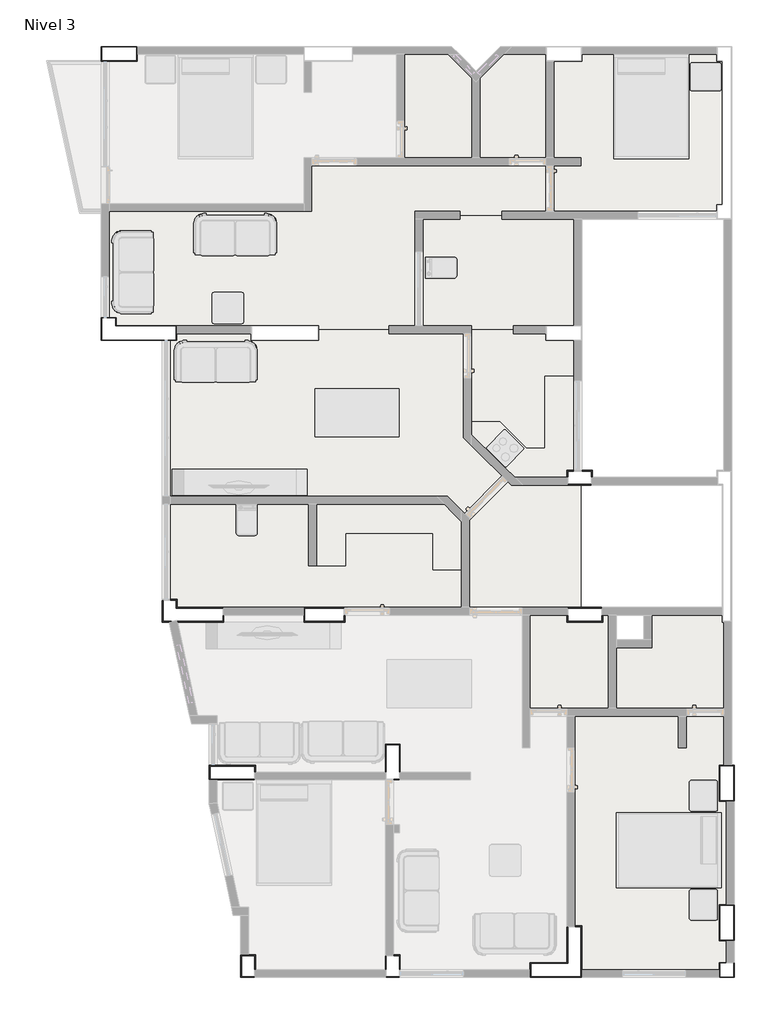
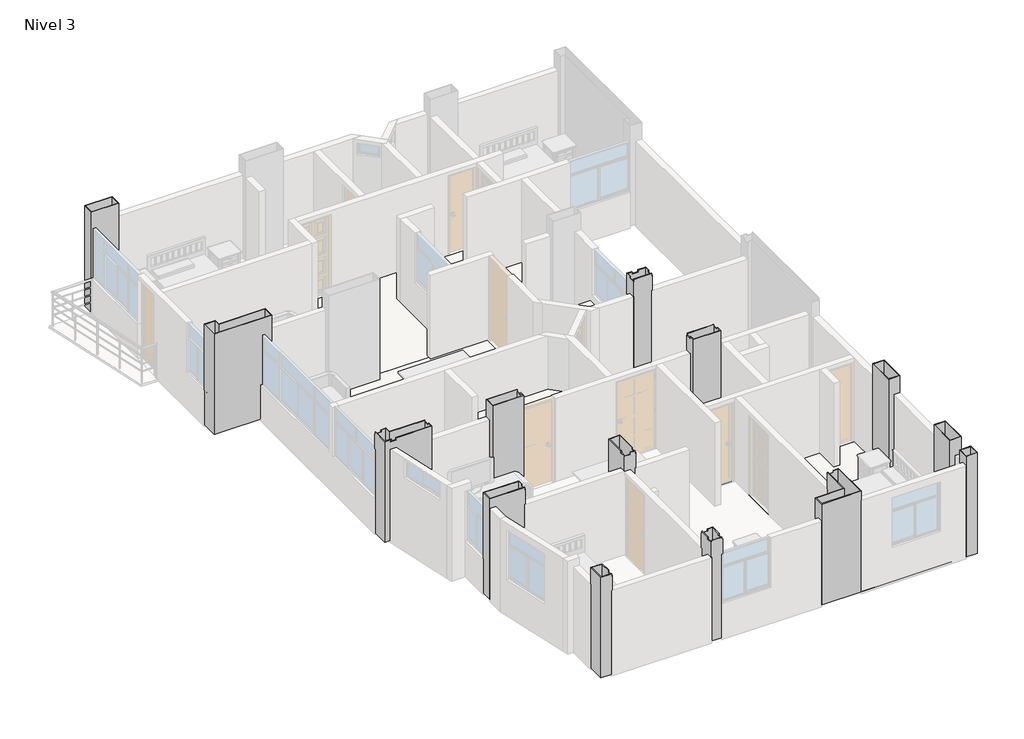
# One storey, part 3 of 4: 14 columns, 14 slabs.
"""IFC4 building model written with IfcOpenShell, lengths in millimetres."""

from ifc_helpers import new_model, si_unit, frame, origin, place, context, project, spatial, polyline, outline, extrude, faceted_brep, element, save

model = new_model("IFC4")

# Units and contexts
model_context = context("Model", 3, world=origin())
ifc_project = project(units=[si_unit("LENGTHUNIT", "METRE", prefix="MILLI")], contexts=[model_context])

# Site, building, storey
site = spatial("IfcSite", under=ifc_project)
building = spatial("IfcBuilding", under=site)
storey = spatial("IfcBuildingStorey", under=building, Name="Nivel 3", Elevation=5450.0)

# Columns
placement = place(None, origin())
element("IfcColumn", 1, ObjectType="Columna L Arquitectonica : ACO_L 40x114x25 cm", at=placement, inside=storey, context=model_context, shape_type="Brep", body=[
    faceted_brep([(-350.0, 7000.0, 5450.0), (-1240.0, 7000.0, 5450.0), (-1240.0, 7150.0, 5450.0), (-1355.0, 7150.0, 5450.0), (-1355.0, 7165.0, 5450.0), (-1225.0, 7165.0, 5450.0), (-1225.0, 7015.0, 5450.0), (-350.0, 7015.0, 5450.0), (-1240.0, 7150.0, 8100.0), (-1355.0, 7150.0, 8100.0), (-1355.0, 7150.0, 8050.0), (-1490.0, 7150.0, 8050.0), (-1490.0, 7150.0, 7650.0), (-1355.0, 7150.0, 7650.0), (-1490.0, 6750.0, 5450.0), (-1490.0, 7150.0, 5450.0), (-1490.0, 7150.0, 8100.0), (-1490.0, 6750.0, 8100.0), (-1331.7746495, 6750.0, 8100.0), (-1331.7746495, 6750.0, 8050.0), (-1220.1386409, 6750.0, 8050.0), (-1220.1386409, 6750.0, 8100.0), (-350.0, 6750.0, 8100.0), (-350.0, 6750.0, 5450.0), (-1220.1386409, 6750.0, 5450.0), (-1220.1386409, 6750.0, 7850.0), (-1331.7746495, 6750.0, 7850.0), (-1331.7746495, 6750.0, 5450.0), (-350.0, 6865.0, 8100.0), (-350.0, 6865.0, 8050.0), (-350.0, 7000.0, 8050.0), (-350.0, 7000.0, 7650.0), (-350.0, 6865.0, 7650.0), (-350.0, 6865.0, 5450.0), (-350.0, 7000.0, 8100.0), (-1240.0, 7000.0, 8100.0), (-1225.0, 7165.0, 8100.0), (-1225.0, 7015.0, 8100.0), (-350.0, 7015.0, 8100.0), (-350.0, 7015.0, 8050.0), (-335.0, 7015.0, 8050.0), (-335.0, 7015.0, 7650.0), (-350.0, 7015.0, 7650.0), (-335.0, 6735.0, 8100.0), (-335.0, 6735.0, 5450.0), (-335.0, 6865.0, 5450.0), (-335.0, 6865.0, 7650.0), (-335.0, 6865.0, 8050.0), (-335.0, 6865.0, 8100.0), (-1216.8940234, 6735.0, 8100.0), (-1216.8940234, 6735.0, 8050.0), (-1370.3630896, 6735.0, 8050.0), (-1370.3630896, 6735.0, 8100.0), (-1505.0, 6735.0, 8100.0), (-1505.0, 6735.0, 5450.0), (-1370.3630896, 6735.0, 5450.0), (-1370.3630896, 6735.0, 7850.0), (-1216.8940234, 6735.0, 7850.0), (-1216.8940234, 6735.0, 5450.0), (-1505.0, 7150.0, 8100.0), (-1505.0, 7150.0, 8050.0), (-1505.0, 7165.0, 8050.0), (-1505.0, 7165.0, 7650.0), (-1505.0, 7150.0, 7650.0), (-1505.0, 7150.0, 5450.0), (-1355.0, 7165.0, 6350.0), (-1355.0, 7165.0, 7650.0), (-1355.0, 7165.0, 8050.0), (-1355.0, 7165.0, 8100.0), (-1371.7378651, 6741.3556434, 8100.0), (-1371.7378651, 6741.3556434, 5450.0), (-1371.7378651, 6741.3556434, 7850.0), (-1371.7378651, 6741.3556434, 8050.0)], [[[0, 1, 2, 3, 4, 5, 6, 7]], [[2, 8, 9, 10, 11, 12, 13, 3]], [[14, 15, 12, 11, 16, 17]], [[14, 17, 18, 19, 20, 21, 22, 23, 24, 25, 26, 27]], [[23, 22, 28, 29, 30, 31, 32, 33]], [[1, 0, 31, 30, 34, 35]], [[2, 1, 35, 8]], [[6, 5, 36, 37]], [[6, 37, 38, 39, 40, 41, 42, 7]], [[43, 44, 45, 46, 41, 40, 47, 48]], [[44, 43, 49, 50, 51, 52, 53, 54, 55, 56, 57, 58]], [[54, 53, 59, 60, 61, 62, 63, 64]], [[36, 5, 4, 65, 66, 62, 61, 67, 68]], [[17, 16, 59, 53, 52, 69, 18]], [[4, 3, 13, 66, 65]], [[12, 63, 62, 66, 13]], [[63, 12, 15, 64]], [[32, 46, 45, 33]], [[42, 31, 0, 7]], [[31, 42, 41, 46, 32]], [[23, 33, 45, 44, 58, 24]], [[57, 25, 24, 58]], [[70, 71, 56, 55]], [[71, 70, 27, 26]], [[25, 57, 56, 71, 26]], [[15, 14, 27, 70, 55, 54, 64]], [[67, 10, 9, 68]], [[60, 11, 10, 67, 61]], [[11, 60, 59, 16]], [[47, 29, 28, 48]], [[39, 30, 29, 47, 40]], [[30, 39, 38, 34]], [[35, 34, 38, 37, 36, 68, 9, 8]], [[20, 50, 49, 21]], [[51, 72, 69, 52]], [[50, 20, 19, 72, 51]], [[69, 72, 19, 18]], [[43, 48, 28, 22, 21, 49]]]),
])
element("IfcColumn", 2, ObjectType="Columna L Arquitectonica : ACO_L 40x140x25 cm", at=placement, inside=storey, context=model_context, shape_type="Brep", body=[
    faceted_brep([(-2385.0, 12515.0, 5450.0), (-2385.0, 12365.0, 5450.0), (-1235.0, 12365.0, 5450.0), (-1235.0, 12085.0, 5450.0), (-2665.0, 12085.0, 5450.0), (-2665.0, 12515.0, 5450.0), (-2400.0, 12500.0, 5450.0), (-2650.0, 12500.0, 5450.0), (-2650.0, 12100.0, 5450.0), (-1250.0, 12100.0, 5450.0), (-1250.0, 12350.0, 5450.0), (-2400.0, 12350.0, 5450.0), (-2400.0, 12500.0, 8100.0), (-2650.0, 12500.0, 8100.0), (-2650.0, 12100.0, 8100.0), (-1250.0, 12100.0, 8100.0), (-1250.0, 12350.0, 8100.0), (-2400.0, 12350.0, 8100.0), (-2385.0, 12515.0, 8100.0), (-2385.0, 12365.0, 8100.0), (-1235.0, 12365.0, 8100.0), (-1235.0, 12365.0, 8050.0), (-1235.0, 12365.0, 7650.0), (-1235.0, 12085.0, 8100.0), (-2665.0, 12085.0, 8100.0), (-2665.0, 12515.0, 8100.0), (-2665.0, 12515.0, 8050.0), (-2665.0, 12515.0, 6350.0)], [[[0, 1, 2, 3, 4, 5], [6, 7, 8, 9, 10, 11]], [[12, 13, 7, 6]], [[13, 14, 8, 7]], [[14, 15, 9, 8]], [[15, 16, 10, 9]], [[16, 17, 11, 10]], [[17, 12, 6, 11]], [[18, 19, 1, 0]], [[19, 20, 21, 22, 2, 1]], [[20, 23, 3, 2, 22, 21]], [[23, 24, 4, 3]], [[24, 25, 26, 27, 5, 4]], [[25, 18, 0, 5, 27, 26]], [[18, 25, 24, 23, 20, 19], [12, 17, 16, 15, 14, 13]]]),
])
element("IfcColumn", 3, ObjectType="Columna L Arquitectonica : ACO_L 95x95x25 cm", at=placement, inside=storey, context=model_context, shape_type="Brep", body=[
    faceted_brep([(5500.0, 250.0, 5450.0), (5500.0, 0.0, 5450.0), (6450.0, 0.0, 5450.0), (6450.0, 950.0, 5450.0), (6335.0, 950.0, 5450.0), (6335.0, 965.0, 5450.0), (6465.0, 965.0, 5450.0), (6465.0, -15.0, 5450.0), (5485.0, -15.0, 5450.0), (5485.0, 265.0, 5450.0), (6185.0, 265.0, 5450.0), (6185.0, 950.0, 5450.0), (6200.0, 950.0, 5450.0), (6200.0, 250.0, 5450.0), (5500.0, 250.0, 8100.0), (5500.0, 0.0, 8100.0), (6450.0, 0.0, 8100.0), (6450.0, 950.0, 8100.0), (6335.0, 950.0, 8100.0), (6335.0, 950.0, 8050.0), (6200.0, 950.0, 8050.0), (6200.0, 950.0, 7650.0), (6335.0, 950.0, 7650.0), (6200.0, 950.0, 8100.0), (6200.0, 250.0, 8100.0), (5485.0, 265.0, 8100.0), (6185.0, 265.0, 8100.0), (6185.0, 950.0, 8100.0), (6185.0, 950.0, 8050.0), (6185.0, 965.0, 8050.0), (6185.0, 965.0, 7650.0), (6185.0, 950.0, 7650.0), (6465.0, 965.0, 8100.0), (6335.0, 965.0, 7650.0), (6335.0, 965.0, 8050.0), (6335.0, 965.0, 8100.0), (6465.0, -15.0, 8100.0), (6465.0, -15.0, 8050.0), (6465.0, -15.0, 7850.0), (5485.0, -15.0, 8100.0), (5485.0, -15.0, 8050.0), (5485.0, -15.0, 7650.0)], [[[0, 1, 2, 3, 4, 5, 6, 7, 8, 9, 10, 11, 12, 13]], [[1, 0, 14, 15]], [[2, 1, 15, 16]], [[3, 2, 16, 17]], [[3, 17, 18, 19, 20, 21, 22, 4]], [[13, 12, 21, 20, 23, 24]], [[0, 13, 24, 14]], [[10, 9, 25, 26]], [[10, 26, 27, 28, 29, 30, 31, 11]], [[32, 6, 5, 33, 30, 29, 34, 35]], [[7, 6, 32, 36, 37, 38]], [[8, 7, 38, 37, 36, 39, 40, 41]], [[9, 8, 41, 40, 39, 25]], [[15, 14, 24, 23, 27, 26, 25, 39, 36, 32, 35, 18, 17, 16]], [[22, 33, 5, 4]], [[21, 31, 30, 33, 22]], [[31, 21, 12, 11]], [[34, 19, 18, 35]], [[28, 20, 19, 34, 29]], [[20, 28, 27, 23]]]),
])
element("IfcColumn", 4, ObjectType="Columna Rectangular Arquitectonica : ACO_Rectangular 25x25 cm", at=placement, inside=storey, context=model_context, shape_type="Brep", body=[
    faceted_brep([(9085.0, -15.0, 5450.0), (9085.0, 265.0, 5450.0), (9365.0, 265.0, 5450.0), (9365.0, -15.0, 5450.0), (9100.0, 0.0, 5450.0), (9350.0, 0.0, 5450.0), (9350.0, 250.0, 5450.0), (9100.0, 250.0, 5450.0), (9100.0, 0.0, 8100.0), (9350.0, 0.0, 8100.0), (9350.0, 250.0, 8100.0), (9100.0, 250.0, 8100.0), (9085.0, -15.0, 8100.0), (9085.0, 265.0, 8100.0), (9085.0, -15.0, 7850.0), (9085.0, -15.0, 8050.0), (9365.0, 265.0, 8100.0), (9365.0, 265.0, 8050.0), (9365.0, 265.0, 7650.0), (9365.0, -15.0, 8100.0)], [[[0, 1, 2, 3], [4, 5, 6, 7]], [[8, 9, 5, 4]], [[9, 10, 6, 5]], [[10, 11, 7, 6]], [[11, 8, 4, 7]], [[12, 13, 1, 0, 14, 15]], [[13, 16, 17, 18, 2, 1]], [[16, 19, 3, 2, 18, 17]], [[19, 12, 15, 14, 0, 3]], [[12, 19, 16, 13], [8, 11, 10, 9]]]),
])
element("IfcColumn", 5, ObjectType="Columna Rectangular Arquitectonica : ACO_Rectangular 25x40 cm", at=placement, inside=storey, context=model_context, shape_type="Brep", body=[
    faceted_brep([(2735.0, 400.0, 5450.0), (2750.0, 400.0, 5450.0), (2750.0, 135.0, 5450.0), (2735.0, 135.0, 5450.0), (3000.0, 0.0, 5450.0), (2750.0, 0.0, 5450.0), (2750.0, 0.0, 7650.0), (2750.0, 0.0, 8050.0), (2750.0, 0.0, 8100.0), (3000.0, 0.0, 8100.0), (3000.0, 0.0, 8050.0), (3000.0, 0.0, 7650.0), (3000.0, 400.0, 8100.0), (3000.0, 400.0, 5450.0), (3000.0, 135.0, 5450.0), (3000.0, 135.0, 7650.0), (3000.0, 135.0, 8050.0), (3000.0, 135.0, 8100.0), (2885.0, 400.0, 8100.0), (2885.0, 400.0, 8050.0), (2750.0, 400.0, 8050.0), (2750.0, 400.0, 7650.0), (2885.0, 400.0, 7650.0), (2885.0, 400.0, 5450.0), (2750.0, 400.0, 8100.0), (2750.0, 135.0, 8100.0), (2750.0, 135.0, 8050.0), (2750.0, 135.0, 7650.0), (2735.0, 415.0, 7650.0), (2735.0, 400.0, 7650.0), (2735.0, 135.0, 7650.0), (2735.0, -15.0, 7650.0), (2735.0, -15.0, 8050.0), (2735.0, 135.0, 8050.0), (2735.0, 135.0, 8100.0), (2735.0, 400.0, 8100.0), (2735.0, 400.0, 8050.0), (2735.0, 415.0, 8050.0), (3015.0, 415.0, 8100.0), (3015.0, 415.0, 5450.0), (2885.0, 415.0, 5450.0), (2885.0, 415.0, 7650.0), (2885.0, 415.0, 8050.0), (2885.0, 415.0, 8100.0), (3015.0, 135.0, 8100.0), (3015.0, 135.0, 8050.0), (3015.0, -15.0, 8050.0), (3015.0, -15.0, 7650.0), (3015.0, 135.0, 7650.0), (3015.0, 135.0, 6350.0), (3015.0, 135.0, 5450.0), (2750.0, -15.0, 7650.0), (2750.0, -15.0, 5450.0), (3000.0, -15.0, 5450.0), (3000.0, -15.0, 7650.0), (3000.0, -15.0, 8050.0), (3000.0, -15.0, 8100.0), (2750.0, -15.0, 8100.0), (2750.0, -15.0, 8050.0)], [[[0, 1, 2, 3]], [[4, 5, 6, 7, 8, 9, 10, 11]], [[12, 13, 14, 15, 11, 10, 16, 17]], [[13, 12, 18, 19, 20, 21, 22, 23]], [[1, 21, 20, 24, 25, 26, 7, 6, 27, 2]], [[28, 29, 0, 3, 30, 31, 32, 33, 34, 35, 36, 37]], [[38, 39, 40, 41, 28, 37, 42, 43]], [[39, 38, 44, 45, 46, 47, 48, 49, 50]], [[31, 51, 52, 53, 54, 47, 46, 55, 56, 57, 58, 32]], [[9, 8, 57, 56]], [[22, 41, 40, 23]], [[21, 29, 28, 41, 22]], [[29, 21, 1, 0]], [[27, 30, 3, 2]], [[6, 51, 31, 30, 27]], [[51, 6, 5, 52]], [[13, 23, 40, 39, 50, 14]], [[15, 14, 50, 49, 48]], [[11, 54, 53, 4]], [[54, 11, 15, 48, 47]], [[5, 4, 53, 52]], [[42, 19, 18, 43]], [[36, 20, 19, 42, 37]], [[20, 36, 35, 24]], [[33, 26, 25, 34]], [[58, 7, 26, 33, 32]], [[7, 58, 57, 8]], [[24, 35, 34, 25]], [[16, 45, 44, 17]], [[10, 55, 46, 45, 16]], [[55, 10, 9, 56]], [[18, 12, 17, 44, 38, 43]]]),
])
element("IfcColumn", 6, ObjectType="Columna Rectangular Arquitectonica : ACO_Rectangular 25x40 cm", at=placement, inside=storey, context=model_context, shape_type="Brep", body=[
    faceted_brep([(0.0, 0.0, 5450.0), (250.0, 0.0, 5450.0), (250.0, -15.0, 5450.0), (-15.0, -15.0, 5450.0), (-15.0, 415.0, 5450.0), (265.0, 415.0, 5450.0), (265.0, 135.0, 5450.0), (250.0, 135.0, 5450.0), (250.0, 400.0, 5450.0), (0.0, 400.0, 5450.0), (0.0, 0.0, 8100.0), (250.0, 0.0, 8100.0), (250.0, 0.0, 8050.0), (250.0, 0.0, 7650.0), (250.0, 400.0, 8100.0), (250.0, 135.0, 7650.0), (250.0, 135.0, 8050.0), (250.0, 135.0, 8100.0), (0.0, 400.0, 8100.0), (-15.0, -15.0, 8100.0), (-15.0, 415.0, 8100.0), (-15.0, 415.0, 8050.0), (-15.0, 415.0, 7650.0), (265.0, 415.0, 8100.0), (265.0, 135.0, 8100.0), (265.0, 135.0, 8050.0), (265.0, -15.0, 8050.0), (265.0, -15.0, 7650.0), (265.0, 135.0, 7650.0), (250.0, -15.0, 7650.0), (250.0, -15.0, 8050.0), (250.0, -15.0, 8100.0)], [[[0, 1, 2, 3, 4, 5, 6, 7, 8, 9]], [[1, 0, 10, 11, 12, 13]], [[14, 8, 7, 15, 13, 12, 16, 17]], [[9, 8, 14, 18]], [[0, 9, 18, 10]], [[4, 3, 19, 20, 21, 22]], [[5, 4, 22, 21, 20, 23]], [[5, 23, 24, 25, 26, 27, 28, 6]], [[19, 3, 2, 29, 27, 26, 30, 31]], [[11, 10, 18, 14, 17, 24, 23, 20, 19, 31]], [[28, 15, 7, 6]], [[13, 29, 2, 1]], [[29, 13, 15, 28, 27]], [[16, 25, 24, 17]], [[12, 30, 26, 25, 16]], [[30, 12, 11, 31]]]),
])
element("IfcColumn", 7, ObjectType="Columna Rectangular Arquitectonica : ACO_Rectangular 25x45 cm", at=placement, inside=storey, context=model_context, shape_type="Brep", body=[
    faceted_brep([(6315.0, 9600.0, 5450.0), (6200.0, 9600.0, 5450.0), (6200.0, 9485.0, 5450.0), (6185.0, 9485.0, 5450.0), (6185.0, 9615.0, 5450.0), (6315.0, 9615.0, 5450.0), (6200.0, 9600.0, 8100.0), (6200.0, 9485.0, 8100.0), (6200.0, 9485.0, 8050.0), (6200.0, 9350.0, 8050.0), (6200.0, 9350.0, 7650.0), (6200.0, 9485.0, 7650.0), (6650.0, 9350.0, 5450.0), (6200.0, 9350.0, 5450.0), (6200.0, 9350.0, 8100.0), (6650.0, 9350.0, 8100.0), (6650.0, 9350.0, 8050.0), (6650.0, 9350.0, 7650.0), (6650.0, 9600.0, 8100.0), (6650.0, 9600.0, 5450.0), (6650.0, 9485.0, 5450.0), (6650.0, 9485.0, 7650.0), (6650.0, 9485.0, 8050.0), (6650.0, 9485.0, 8100.0), (6315.0, 9600.0, 7650.0), (6465.0, 9600.0, 7650.0), (6465.0, 9600.0, 5450.0), (6465.0, 9600.0, 8100.0), (6465.0, 9600.0, 8050.0), (6315.0, 9600.0, 8050.0), (6315.0, 9600.0, 8100.0), (6665.0, 9615.0, 8100.0), (6665.0, 9615.0, 5450.0), (6465.0, 9615.0, 5450.0), (6465.0, 9615.0, 6450.0), (6465.0, 9615.0, 7650.0), (6315.0, 9615.0, 7650.0), (6315.0, 9615.0, 6450.0), (6185.0, 9615.0, 8100.0), (6315.0, 9615.0, 8100.0), (6315.0, 9615.0, 8050.0), (6465.0, 9615.0, 8050.0), (6465.0, 9615.0, 8100.0), (6665.0, 9485.0, 8100.0), (6665.0, 9485.0, 8050.0), (6665.0, 9335.0, 8050.0), (6665.0, 9335.0, 7650.0), (6665.0, 9485.0, 7650.0), (6665.0, 9485.0, 5450.0), (6185.0, 9335.0, 7650.0), (6200.0, 9335.0, 7650.0), (6200.0, 9335.0, 5450.0), (6650.0, 9335.0, 5450.0), (6650.0, 9335.0, 7650.0), (6650.0, 9335.0, 8050.0), (6650.0, 9335.0, 8100.0), (6200.0, 9335.0, 8100.0), (6200.0, 9335.0, 8050.0), (6185.0, 9335.0, 8050.0), (6185.0, 9485.0, 7650.0), (6185.0, 9485.0, 8050.0), (6185.0, 9485.0, 8100.0)], [[[0, 1, 2, 3, 4, 5]], [[1, 6, 7, 8, 9, 10, 11, 2]], [[12, 13, 10, 9, 14, 15, 16, 17]], [[18, 19, 20, 21, 17, 16, 22, 23]], [[6, 1, 0, 24, 25, 26, 19, 18, 27, 28, 29, 30]], [[31, 32, 33, 34, 35, 36, 37, 5, 4, 38, 39, 40, 41, 42]], [[32, 31, 43, 44, 45, 46, 47, 48]], [[49, 50, 51, 52, 53, 46, 45, 54, 55, 56, 57, 58]], [[38, 4, 3, 59, 49, 58, 60, 61]], [[15, 14, 56, 55]], [[33, 26, 25, 35, 34]], [[0, 5, 37, 36, 24]], [[25, 24, 36, 35]], [[11, 59, 3, 2]], [[10, 50, 49, 59, 11]], [[50, 10, 13, 51]], [[19, 26, 33, 32, 48, 20]], [[47, 21, 20, 48]], [[53, 17, 21, 47, 46]], [[17, 53, 52, 12]], [[13, 12, 52, 51]], [[41, 28, 27, 42]], [[29, 40, 39, 30]], [[28, 41, 40, 29]], [[60, 8, 7, 61]], [[57, 9, 8, 60, 58]], [[9, 57, 56, 14]], [[6, 30, 39, 38, 61, 7]], [[22, 44, 43, 23]], [[16, 54, 45, 44, 22]], [[54, 16, 15, 55]], [[27, 18, 23, 43, 31, 42]]]),
])
element("IfcColumn", 8, ObjectType="Columna Rectangular Arquitectonica : ACO_Rectangular 25x65 cm", at=placement, inside=storey, context=model_context, shape_type="Brep", body=[
    faceted_brep([(-2665.0, 17665.0, 5450.0), (-1985.0, 17665.0, 5450.0), (-1985.0, 17385.0, 5450.0), (-2665.0, 17385.0, 5450.0), (-2650.0, 17650.0, 5450.0), (-2650.0, 17400.0, 5450.0), (-2000.0, 17400.0, 5450.0), (-2000.0, 17650.0, 5450.0), (-2650.0, 17650.0, 8100.0), (-2650.0, 17400.0, 8100.0), (-2000.0, 17400.0, 8100.0), (-2000.0, 17650.0, 8100.0), (-2665.0, 17665.0, 8100.0), (-1985.0, 17665.0, 8100.0), (-1985.0, 17665.0, 8050.0), (-1985.0, 17665.0, 7650.0), (-1985.0, 17385.0, 8100.0), (-2665.0, 17385.0, 8100.0), (-2665.0, 17385.0, 8050.0), (-2665.0, 17385.0, 6350.0)], [[[0, 1, 2, 3], [4, 5, 6, 7]], [[8, 9, 5, 4]], [[9, 10, 6, 5]], [[10, 11, 7, 6]], [[11, 8, 4, 7]], [[12, 13, 14, 15, 1, 0]], [[13, 16, 2, 1, 15, 14]], [[16, 17, 18, 19, 3, 2]], [[17, 12, 0, 3, 19, 18]], [[12, 17, 16, 13], [8, 11, 10, 9]]]),
])
element("IfcColumn", 9, ObjectType="Columna Rectangular Arquitectonica : ACO_Rectangular 25x65 cm", at=placement, inside=storey, context=model_context, shape_type="Brep", body=[
    faceted_brep([(6850.0, 7000.0, 5450.0), (6200.0, 7000.0, 5450.0), (6200.0, 7015.0, 5450.0), (6850.0, 7015.0, 5450.0), (6200.0, 6750.0, 8100.0), (6200.0, 6750.0, 5450.0), (6200.0, 6865.0, 5450.0), (6200.0, 6865.0, 7650.0), (6200.0, 7000.0, 7650.0), (6200.0, 7000.0, 8050.0), (6200.0, 6865.0, 8050.0), (6200.0, 6865.0, 8100.0), (6850.0, 6750.0, 5450.0), (6850.0, 6750.0, 8100.0), (6850.0, 6865.0, 8100.0), (6850.0, 6865.0, 8050.0), (6850.0, 7000.0, 8050.0), (6850.0, 7000.0, 7650.0), (6850.0, 6865.0, 7650.0), (6850.0, 6865.0, 5450.0), (6850.0, 7000.0, 8100.0), (6200.0, 7000.0, 8100.0), (6850.0, 7015.0, 7650.0), (6200.0, 7015.0, 7650.0), (6185.0, 7015.0, 7650.0), (6185.0, 7015.0, 8050.0), (6200.0, 7015.0, 8050.0), (6200.0, 7015.0, 8100.0), (6850.0, 7015.0, 8100.0), (6850.0, 7015.0, 8050.0), (6865.0, 7015.0, 8050.0), (6865.0, 7015.0, 7650.0), (6865.0, 6735.0, 8100.0), (6865.0, 6735.0, 5450.0), (6865.0, 6865.0, 5450.0), (6865.0, 6865.0, 7650.0), (6865.0, 6865.0, 8050.0), (6865.0, 6865.0, 8100.0), (6185.0, 6735.0, 5450.0), (6185.0, 6735.0, 8100.0), (6185.0, 6865.0, 8100.0), (6185.0, 6865.0, 8050.0), (6185.0, 6865.0, 7650.0), (6185.0, 6865.0, 5450.0)], [[[0, 1, 2, 3]], [[4, 5, 6, 7, 8, 9, 10, 11]], [[12, 5, 4, 13]], [[12, 13, 14, 15, 16, 17, 18, 19]], [[1, 0, 17, 16, 20, 21, 9, 8]], [[22, 3, 2, 23, 24, 25, 26, 27, 28, 29, 30, 31]], [[32, 33, 34, 35, 31, 30, 36, 37]], [[38, 33, 32, 39]], [[38, 39, 40, 41, 25, 24, 42, 43]], [[13, 4, 11, 40, 39, 32, 37, 14]], [[18, 35, 34, 19]], [[22, 17, 0, 3]], [[17, 22, 31, 35, 18]], [[6, 43, 42, 7]], [[8, 23, 2, 1]], [[23, 8, 7, 42, 24]], [[5, 12, 19, 34, 33, 38, 43, 6]], [[36, 15, 14, 37]], [[29, 16, 15, 36, 30]], [[16, 29, 28, 20]], [[10, 41, 40, 11]], [[9, 26, 25, 41, 10]], [[26, 9, 21, 27]], [[21, 20, 28, 27]]]),
])
element("IfcColumn", 10, ObjectType="Columna Rectangular Arquitectonica : ACO_Rectangular 25x65 cm", at=placement, inside=storey, context=model_context, shape_type="Brep", body=[
    faceted_brep([(3000.0, 4400.0, 5450.0), (2750.0, 4400.0, 5450.0), (2750.0, 3885.0, 5450.0), (2735.0, 3885.0, 5450.0), (2735.0, 4415.0, 5450.0), (3015.0, 4415.0, 5450.0), (3015.0, 3885.0, 5450.0), (3000.0, 3885.0, 5450.0), (3000.0, 3750.0, 7650.0), (3000.0, 3750.0, 5450.0), (2885.0, 3750.0, 5450.0), (2885.0, 3750.0, 7650.0), (2750.0, 3750.0, 7650.0), (2750.0, 3750.0, 8050.0), (2885.0, 3750.0, 8050.0), (2885.0, 3750.0, 8100.0), (3000.0, 3750.0, 8100.0), (3000.0, 3750.0, 8050.0), (3000.0, 4400.0, 8100.0), (3000.0, 3885.0, 7650.0), (3000.0, 3885.0, 8050.0), (3000.0, 3885.0, 8100.0), (2750.0, 4400.0, 8100.0), (2750.0, 3885.0, 8100.0), (2750.0, 3885.0, 8050.0), (2750.0, 3885.0, 7650.0), (2735.0, 4415.0, 8100.0), (2735.0, 3885.0, 7650.0), (2735.0, 3750.0, 7650.0), (2735.0, 3735.0, 7650.0), (2735.0, 3735.0, 8050.0), (2735.0, 3750.0, 8050.0), (2735.0, 3885.0, 8050.0), (2735.0, 3885.0, 8100.0), (3015.0, 4415.0, 8100.0), (3015.0, 3885.0, 8100.0), (3015.0, 3885.0, 8050.0), (3015.0, 3735.0, 8050.0), (3015.0, 3735.0, 7650.0), (3015.0, 3885.0, 7650.0), (3000.0, 3735.0, 5450.0), (3000.0, 3735.0, 7650.0), (3000.0, 3735.0, 8050.0), (3000.0, 3735.0, 8100.0), (2885.0, 3735.0, 8100.0), (2885.0, 3735.0, 8050.0), (2750.0, 3735.0, 8050.0), (2750.0, 3735.0, 7650.0), (2885.0, 3735.0, 7650.0), (2885.0, 3735.0, 7550.0), (2885.0, 3735.0, 5450.0)], [[[0, 1, 2, 3, 4, 5, 6, 7]], [[8, 9, 10, 11, 12, 13, 14, 15, 16, 17]], [[18, 0, 7, 19, 8, 17, 20, 21]], [[1, 0, 18, 22]], [[1, 22, 23, 24, 13, 12, 25, 2]], [[26, 4, 3, 27, 28, 29, 30, 31, 32, 33]], [[5, 4, 26, 34]], [[5, 34, 35, 36, 37, 38, 39, 6]], [[40, 41, 38, 37, 42, 43, 44, 45, 46, 30, 29, 47, 48, 49, 50]], [[43, 16, 15, 44]], [[39, 19, 7, 6]], [[8, 41, 40, 9]], [[41, 8, 19, 39, 38]], [[25, 27, 3, 2]], [[27, 25, 12, 47, 29, 28]], [[9, 40, 50, 10]], [[48, 11, 10, 50, 49]], [[11, 48, 47, 12]], [[20, 36, 35, 21]], [[17, 42, 37, 36, 20]], [[42, 17, 16, 43]], [[32, 24, 23, 33]], [[24, 32, 31, 30, 46, 13]], [[22, 18, 21, 35, 34, 26, 33, 23]], [[14, 45, 44, 15]], [[45, 14, 13, 46]]]),
])
element("IfcColumn", 11, ObjectType="Columna Rectangular Arquitectonica : ACO_Rectangular 25x65 cm", at=placement, inside=storey, context=model_context, shape_type="Brep", body=[
    faceted_brep([(9085.0, 685.0, 5450.0), (9085.0, 1365.0, 5450.0), (9365.0, 1365.0, 5450.0), (9365.0, 685.0, 5450.0), (9100.0, 700.0, 5450.0), (9350.0, 700.0, 5450.0), (9350.0, 1350.0, 5450.0), (9100.0, 1350.0, 5450.0), (9100.0, 700.0, 8100.0), (9350.0, 700.0, 8100.0), (9350.0, 1350.0, 8100.0), (9100.0, 1350.0, 8100.0), (9085.0, 685.0, 8100.0), (9085.0, 1365.0, 8100.0), (9365.0, 1365.0, 8100.0), (9365.0, 1365.0, 8050.0), (9365.0, 1365.0, 7650.0), (9365.0, 685.0, 8100.0), (9365.0, 685.0, 8050.0), (9365.0, 685.0, 7650.0)], [[[0, 1, 2, 3], [4, 5, 6, 7]], [[8, 9, 5, 4]], [[9, 10, 6, 5]], [[10, 11, 7, 6]], [[11, 8, 4, 7]], [[12, 13, 1, 0]], [[13, 14, 15, 16, 2, 1]], [[14, 17, 18, 19, 3, 2, 16, 15]], [[17, 12, 0, 3, 19, 18]], [[12, 17, 14, 13], [8, 11, 10, 9]]]),
])
element("IfcColumn", 12, ObjectType="Columna Rectangular Arquitectonica : ACO_Rectangular 25x65 cm", at=placement, inside=storey, context=model_context, shape_type="Brep", body=[
    faceted_brep([(9085.0, 3335.0, 5450.0), (9085.0, 4015.0, 5450.0), (9365.0, 4015.0, 5450.0), (9365.0, 3335.0, 5450.0), (9100.0, 3350.0, 5450.0), (9350.0, 3350.0, 5450.0), (9350.0, 4000.0, 5450.0), (9100.0, 4000.0, 5450.0), (9100.0, 3350.0, 8100.0), (9350.0, 3350.0, 8100.0), (9350.0, 4000.0, 8100.0), (9100.0, 4000.0, 8100.0), (9085.0, 3335.0, 8100.0), (9085.0, 4015.0, 8100.0), (9365.0, 4015.0, 8100.0), (9365.0, 3335.0, 8100.0), (9365.0, 3335.0, 8050.0), (9365.0, 3335.0, 7650.0)], [[[0, 1, 2, 3], [4, 5, 6, 7]], [[8, 9, 5, 4]], [[9, 10, 6, 5]], [[10, 11, 7, 6]], [[11, 8, 4, 7]], [[12, 13, 1, 0]], [[13, 14, 2, 1]], [[14, 15, 16, 17, 3, 2]], [[15, 12, 0, 3, 17, 16]], [[12, 15, 14, 13], [8, 11, 10, 9]]]),
])
element("IfcColumn", 13, ObjectType="Columna Rectangular Arquitectonica : ACO_Rectangular 25x75 cm", at=placement, inside=storey, context=model_context, shape_type="Brep", body=[
    faceted_brep([(1200.0, 7000.0, 5450.0), (1200.0, 6750.0, 5450.0), (1950.0, 6750.0, 5450.0), (1950.0, 6865.0, 5450.0), (1965.0, 6865.0, 5450.0), (1965.0, 6735.0, 5450.0), (1185.0, 6735.0, 5450.0), (1185.0, 7015.0, 5450.0), (1950.0, 7015.0, 5450.0), (1950.0, 7000.0, 5450.0), (1200.0, 7000.0, 8100.0), (1200.0, 6750.0, 8100.0), (1950.0, 6750.0, 8100.0), (1950.0, 6865.0, 8100.0), (1950.0, 6865.0, 8050.0), (1950.0, 7000.0, 8050.0), (1950.0, 7000.0, 7650.0), (1950.0, 6865.0, 7650.0), (1950.0, 7000.0, 8100.0), (1185.0, 7015.0, 7650.0), (1185.0, 7015.0, 8050.0), (1185.0, 7015.0, 8100.0), (1950.0, 7015.0, 8100.0), (1950.0, 7015.0, 8050.0), (1965.0, 7015.0, 8050.0), (1965.0, 7015.0, 7650.0), (1950.0, 7015.0, 7650.0), (1965.0, 6735.0, 8100.0), (1965.0, 6865.0, 7650.0), (1965.0, 6865.0, 8050.0), (1965.0, 6865.0, 8100.0), (1185.0, 6735.0, 8100.0)], [[[0, 1, 2, 3, 4, 5, 6, 7, 8, 9]], [[1, 0, 10, 11]], [[2, 1, 11, 12]], [[2, 12, 13, 14, 15, 16, 17, 3]], [[0, 9, 16, 15, 18, 10]], [[7, 19, 20, 21, 22, 23, 24, 25, 26, 8]], [[27, 5, 4, 28, 25, 24, 29, 30]], [[6, 5, 27, 31]], [[7, 6, 31, 21, 20, 19]], [[11, 10, 18, 22, 21, 31, 27, 30, 13, 12]], [[4, 3, 17, 28]], [[16, 26, 25, 28, 17]], [[26, 16, 9, 8]], [[29, 14, 13, 30]], [[23, 15, 14, 29, 24]], [[15, 23, 22, 18]]]),
])
element("IfcColumn", 14, ObjectType="Columna Rectangular Arquitectonica : ACO_Rectangular 25x85 cm", at=placement, inside=storey, context=model_context, shape_type="Brep", body=[
    faceted_brep([(250.0, 4000.0, 5450.0), (-600.0, 4000.0, 5450.0), (-600.0, 3750.0, 5450.0), (250.0, 3750.0, 5450.0), (250.0, 3735.0, 5450.0), (-615.0, 3735.0, 5450.0), (-615.0, 4015.0, 5450.0), (265.0, 4015.0, 5450.0), (265.0, 3885.0, 5450.0), (250.0, 3885.0, 5450.0), (250.0, 4000.0, 8100.0), (250.0, 3885.0, 7650.0), (250.0, 3750.0, 7650.0), (250.0, 3750.0, 8050.0), (250.0, 3885.0, 8050.0), (250.0, 3885.0, 8100.0), (-600.0, 4000.0, 8100.0), (-600.0, 3750.0, 8100.0), (250.0, 3750.0, 8100.0), (-615.0, 3735.0, 8100.0), (-615.0, 3735.0, 8050.0), (-615.0, 3735.0, 7850.0), (250.0, 3735.0, 7650.0), (265.0, 3735.0, 7650.0), (265.0, 3735.0, 8050.0), (250.0, 3735.0, 8050.0), (250.0, 3735.0, 8100.0), (-615.0, 4015.0, 8100.0), (-615.0, 4015.0, 8050.0), (-615.0, 4015.0, 6350.0), (265.0, 4015.0, 8100.0), (265.0, 3885.0, 8100.0), (265.0, 3885.0, 8050.0), (265.0, 3885.0, 7650.0)], [[[0, 1, 2, 3, 4, 5, 6, 7, 8, 9]], [[10, 0, 9, 11, 12, 13, 14, 15]], [[1, 0, 10, 16]], [[2, 1, 16, 17]], [[3, 2, 17, 18, 13, 12]], [[19, 20, 21, 5, 4, 22, 23, 24, 25, 26]], [[6, 5, 21, 20, 19, 27, 28, 29]], [[7, 6, 29, 28, 27, 30]], [[7, 30, 31, 32, 24, 23, 33, 8]], [[16, 10, 15, 31, 30, 27, 19, 26, 18, 17]], [[33, 11, 9, 8]], [[12, 22, 4, 3]], [[22, 12, 11, 33, 23]], [[14, 32, 31, 15]], [[13, 25, 24, 32, 14]], [[25, 13, 18, 26]]]),
])

# Slabs
element("IfcSlab", 15, ObjectType="Mesa de Trabajo", at=placement, inside=storey, context=model_context, shape_type="SweptSolid", body=[
    extrude(outline(polyline([(6315.0, 9615.0), (6185.0, 9615.0), (6185.0, 9485.0), (5193.1628539, 9485.0), (4370.0005808, 10296.5278486), (4370.0005808, 10535.0), (4911.5224554, 10535.0), (5418.690678, 10035.0), (5765.0, 10035.0), (5765.0, 11400.0), (6315.0, 11400.0), (6315.0, 9615.0)])), frame((0.0, 0.0, 6150.0), z_axis=(0.0, 0.0, 1.0), x_axis=(1.0, 0.0, 0.0)), (0.0, 0.0, 1.0), 100.0),
])
element("IfcSlab", 16, ObjectType="Mesa de Trabajo", at=placement, inside=storey, context=model_context, shape_type="SweptSolid", body=[
    extrude(outline(polyline([(3853.1311996, 8975.0), (4185.0, 8643.1311996), (4185.0, 7725.0), (3635.0, 7725.0), (3635.0, 8415.3137403), (3625.3137403, 8425.0), (1975.0005808, 8425.0), (1975.0005808, 7800.0), (1425.0005808, 7800.0), (1425.0005808, 8975.0), (3853.1311996, 8975.0)])), frame((0.0, 0.0, 6150.0), z_axis=(0.0, 0.0, 1.0), x_axis=(1.0, 0.0, 0.0)), (0.0, 0.0, 1.0), 100.0),
])
element("IfcSlab", 17, ObjectType="Piso Acabado 5cm", at=placement, inside=storey, context=model_context, shape_type="SweptSolid", body=[
    extrude(outline(polyline([(6973.0216492, 5100.0), (6185.0, 5100.0), (6185.0, 4975.0), (5485.0, 4975.0), (5485.0, 6865.0), (6185.0, 6865.0), (6185.0, 6735.0), (6865.0, 6735.0), (6865.0, 6865.0), (6973.0216492, 6865.0), (6973.0216492, 5100.0)])), frame((0.0, 0.0, 5400.0), z_axis=(0.0, 0.0, 1.0), x_axis=(1.0, 0.0, 0.0)), (0.0, 0.0, 1.0), 50.0),
])
element("IfcSlab", 18, ObjectType="Piso Acabado 5cm", at=placement, inside=storey, context=model_context, shape_type="SweptSolid", body=[
    extrude(outline(polyline([(9085.0, -15.0), (6465.0, -15.0), (6465.0, 965.0), (6335.0, 965.0), (6335.0, 3499.9505997), (6185.0, 3499.9505997), (6185.0, 4349.9505997), (6335.0, 4349.9505997), (6335.0, 4950.0), (8315.0, 4950.0), (8315.0, 4349.9856618), (8465.0, 4349.9856618), (8465.0, 4950.0), (9165.0, 4950.0), (9165.0, 4015.0), (9085.0, 4015.0), (9085.0, 3335.0), (9215.0, 3335.0), (9215.0, 1365.0), (9085.0, 1365.0), (9085.0, 685.0), (9215.0, 685.0), (9215.0, 265.0), (9085.0, 265.0), (9085.0, -15.0)])), frame((0.0, 0.0, 5400.0), z_axis=(0.0, 0.0, 1.0), x_axis=(1.0, 0.0, 0.0)), (0.0, 0.0, 1.0), 50.0),
])
element("IfcSlab", 19, ObjectType="Piso Acabado 5cm", at=placement, inside=storey, context=model_context, shape_type="SweptSolid", body=[
    extrude(outline(polyline([(7123.0216492, 6250.0), (7798.1159652, 6250.0), (7798.1159652, 6865.0), (9135.0, 6865.0), (9135.0, 6735.0), (9165.0, 6735.0), (9165.0, 4950.0), (8465.0, 4950.0), (8465.0, 5100.0), (7123.0216492, 5100.0), (7123.0216492, 6250.0)])), frame((0.0, 0.0, 5400.0), z_axis=(0.0, 0.0, 1.0), x_axis=(1.0, 0.0, 0.0)), (0.0, 0.0, 1.0), 50.0),
])
element("IfcSlab", 20, ObjectType="Piso Acabado 5cm", at=placement, inside=storey, context=model_context, shape_type="SweptSolid", body=[
    extrude(outline(polyline([(5335.0, 7015.0), (5335.0, 6865.0), (4335.0, 6865.0), (4335.0, 8670.8159799), (4356.7811363, 8692.8555824), (4338.9995085, 8710.4286787), (5042.8092944, 9422.5902384), (5131.6552655, 9335.0), (6450.1679141, 9335.0), (6450.1679141, 7015.0), (5335.0, 7015.0)])), frame((0.0, 0.0, 5400.0), z_axis=(0.0, 0.0, 1.0), x_axis=(1.0, 0.0, 0.0)), (0.0, 0.0, 1.0), 50.0),
])
element("IfcSlab", 21, ObjectType="Piso Acabado 5cm", at=placement, inside=storey, context=model_context, shape_type="SweptSolid", body=[
    extrude(outline(polyline([(2815.0, 7015.0), (2815.0, 6865.0), (1965.0, 6865.0), (1965.0, 7015.0), (-1225.0, 7015.0), (-1225.0, 7165.0), (-1355.0, 7165.0), (-1355.0, 8975.0), (1275.0005808, 8975.0), (1275.0005808, 7800.0), (1425.0005808, 7800.0), (1425.0005808, 8975.0), (3853.1311996, 8975.0), (4185.0, 8643.1311996), (4185.0, 7015.0), (2815.0, 7015.0)])), frame((0.0, 0.0, 5400.0), z_axis=(0.0, 0.0, 1.0), x_axis=(1.0, 0.0, 0.0)), (0.0, 0.0, 1.0), 50.0),
])
element("IfcSlab", 22, ObjectType="Piso Acabado 5cm", at=placement, inside=storey, context=model_context, shape_type="SweptSolid", body=[
    extrude(outline(polyline([(-1355.0, 9125.0), (-1355.0, 12085.0), (-1235.0, 12085.0), (-1235.0, 12215.0), (185.0, 12215.0), (185.0, 12085.0), (1465.0, 12085.0), (1465.0, 12290.0), (2800.0005808, 12290.0), (2800.0005808, 12215.0), (4220.0005808, 12215.0), (4220.0005808, 10233.9775866), (5041.9233596, 9421.6937907), (4334.4440605, 8705.8191734), (3915.2632339, 9125.0), (-1355.0, 9125.0)])), frame((0.0, 0.0, 5400.0), z_axis=(0.0, 0.0, 1.0), x_axis=(1.0, 0.0, 0.0)), (0.0, 0.0, 1.0), 50.0),
])
element("IfcSlab", 23, ObjectType="Piso Acabado 5cm", at=placement, inside=storey, context=model_context, shape_type="SweptSolid", body=[
    extrude(outline(polyline([(4370.0005808, 11365.0), (4220.0005808, 11365.0), (4220.0005808, 12215.0), (4370.0005808, 12215.0), (4370.0005808, 12290.0), (5170.094316, 12290.0), (5170.094316, 12215.0), (5785.0, 12215.0), (5785.0, 12085.0), (6315.0, 12085.0), (6315.0, 9615.0), (6185.0, 9615.0), (6185.0, 9485.0), (5193.1628539, 9485.0), (4370.0005808, 10296.5278486), (4370.0005808, 11365.0)])), frame((0.0, 0.0, 5400.0), z_axis=(0.0, 0.0, 1.0), x_axis=(1.0, 0.0, 0.0)), (0.0, 0.0, 1.0), 50.0),
])
element("IfcSlab", 24, ObjectType="Piso Acabado 5cm", at=placement, inside=storey, context=model_context, shape_type="SweptSolid", body=[
    extrude(outline(polyline([(3450.0005808, 14385.0), (4150.0005808, 14385.0), (4150.0005808, 14460.0), (4950.0005808, 14460.0), (4950.0005808, 14385.0), (6315.0, 14385.0), (6315.0, 12365.0), (5170.094316, 12365.0), (5170.094316, 12290.0), (4370.0005808, 12290.0), (4370.0005808, 12365.0), (3450.0005808, 12365.0), (3450.0005808, 14385.0)])), frame((0.0, 0.0, 5400.0), z_axis=(0.0, 0.0, 1.0), x_axis=(1.0, 0.0, 0.0)), (0.0, 0.0, 1.0), 50.0),
])
element("IfcSlab", 25, ObjectType="Piso Acabado 5cm", at=placement, inside=storey, context=model_context, shape_type="SweptSolid", body=[
    extrude(outline(polyline([(-2385.0, 12365.0), (-2385.0, 12515.0), (-2515.0, 12515.0), (-2515.0, 14533.4801072), (1335.0, 14533.4801072), (1335.0, 15400.0), (5785.0, 15400.0), (5785.0, 14535.0), (4950.0005808, 14535.0), (4950.0005808, 14460.0), (4150.0005808, 14460.0), (4150.0005808, 14535.0), (3300.0005808, 14535.0), (3300.0005808, 12365.0), (2800.0005808, 12365.0), (2800.0005808, 12290.0), (1465.0, 12290.0), (1465.0, 12365.0), (-2385.0, 12365.0)])), frame((0.0, 0.0, 5400.0), z_axis=(0.0, 0.0, 1.0), x_axis=(1.0, 0.0, 0.0)), (0.0, 0.0, 1.0), 50.0),
])
element("IfcSlab", 26, ObjectType="Piso Acabado 5cm", at=placement, inside=storey, context=model_context, shape_type="SweptSolid", body=[
    extrude(outline(polyline([(2949.905684, 16250.0), (3099.905684, 16250.0), (3099.905684, 17515.0), (3927.8210981, 17515.0), (4379.9531324, 17062.8679656), (4379.9531324, 15550.0), (2949.905684, 15550.0), (2949.905684, 16250.0)])), frame((0.0, 0.0, 5400.0), z_axis=(0.0, 0.0, 1.0), x_axis=(1.0, 0.0, 0.0)), (0.0, 0.0, 1.0), 50.0),
])
element("IfcSlab", 27, ObjectType="Piso Acabado 5cm", at=placement, inside=storey, context=model_context, shape_type="SweptSolid", body=[
    extrude(outline(polyline([(5785.0, 17515.0), (5785.0, 15400.0), (5085.0, 15400.0), (5085.0, 15550.0), (4529.9531324, 15550.0), (4529.9531324, 17062.8679656), (4982.0851668, 17515.0), (5785.0, 17515.0)])), frame((0.0, 0.0, 5400.0), z_axis=(0.0, 0.0, 1.0), x_axis=(1.0, 0.0, 0.0)), (0.0, 0.0, 1.0), 50.0),
])
element("IfcSlab", 28, ObjectType="Piso Acabado 5cm", at=placement, inside=storey, context=model_context, shape_type="SweptSolid", body=[
    extrude(outline(polyline([(5785.0, 14535.0), (5785.0, 15400.0), (6450.0, 15400.0), (6450.0, 15550.0), (5935.0, 15550.0), (5935.0, 17385.0), (6465.0, 17385.0), (6465.0, 17515.0), (9035.0, 17515.0), (9035.0, 17385.0), (9135.0, 17385.0), (9135.0, 14665.0), (9035.0, 14665.0), (9035.0, 14535.0), (5785.0, 14535.0)])), frame((0.0, 0.0, 5400.0), z_axis=(0.0, 0.0, 1.0), x_axis=(1.0, 0.0, 0.0)), (0.0, 0.0, 1.0), 50.0),
])

save(model, "model.ifc")
